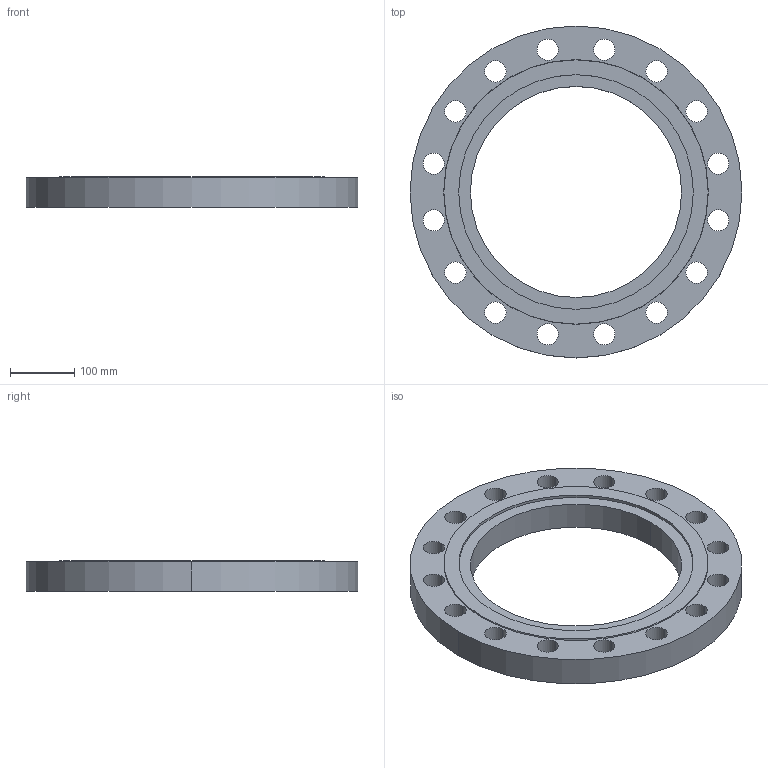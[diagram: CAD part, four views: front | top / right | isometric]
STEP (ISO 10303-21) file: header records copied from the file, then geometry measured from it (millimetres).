
FILE_DESCRIPTION (( 'STEP AP214' ), '1' );
FILE_NAME ('PN40 DN300 Type 01 - Type F Face.STEP', '2019-01-05T20:30:17', ( '' ), ( '' ), 'SwSTEP 2.0', 'SolidWorks 2019', '' );
FILE_SCHEMA (( 'AUTOMOTIVE_DESIGN' ));
Length unit declared in the file: millimetre
Products named in the file (1): PN40 DN300 Type 01 - Type F Face
Bounding box: 515 x 515 x 48 mm (x, y, z)
Volume: 5084468.1 mm3; surface area: 423559.8 mm2
Topology: 1 solids, 1 shells, 44 faces, 120 edges, 80 vertices
Faces by surface type: cylinder 38, plane 4, cone 2
Entity records: 1546 total; most frequent: DIRECTION 290, CARTESIAN_POINT 245, ORIENTED_EDGE 240, AXIS2_PLACEMENT_3D 125, EDGE_CURVE 120, CIRCLE 80, EDGE_LOOP 80, VERTEX_POINT 80
